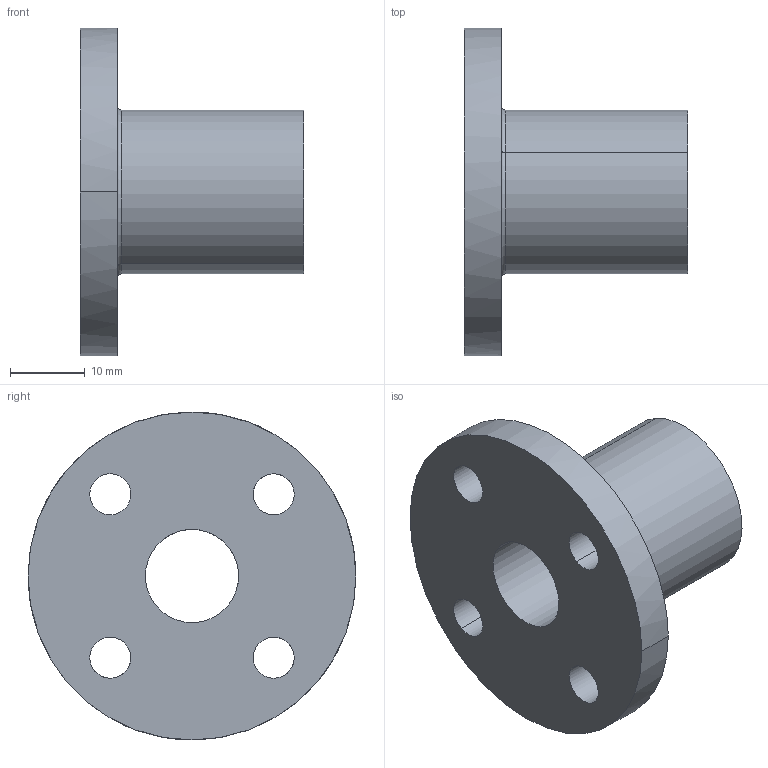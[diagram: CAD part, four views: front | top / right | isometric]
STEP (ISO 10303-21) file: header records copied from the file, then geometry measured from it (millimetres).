
FILE_DESCRIPTION(('CATIA V5 STEP Exchange'),'2;1');
FILE_NAME('C:\Users\aa\Documents\이댈\TM\TTMH\TTMH12.stp','2020-03-26T09:28:28+00:00',('none'),('none'),'CATIA Version 5 Release 20 SP 7 (IN-10)','CATIA V5 STEP AP203','none');
FILE_SCHEMA(('CONFIG_CONTROL_DESIGN'));
Length unit declared in the file: millimetre
Products named in the file (1): TTMH12
Bounding box: 30 x 44 x 44 mm (x, y, z)
Volume: 12953 mm3; surface area: 6533.5 mm2
Topology: 1 solids, 1 shells, 19 faces, 46 edges, 30 vertices
Faces by surface type: cylinder 14, plane 3, torus 2
Entity records: 780 total; most frequent: CARTESIAN_POINT 292, ORIENTED_EDGE 92, DIRECTION 73, EDGE_CURVE 46, AXIS2_PLACEMENT_3D 41, EDGE_LOOP 30, VERTEX_POINT 30, CIRCLE 21
